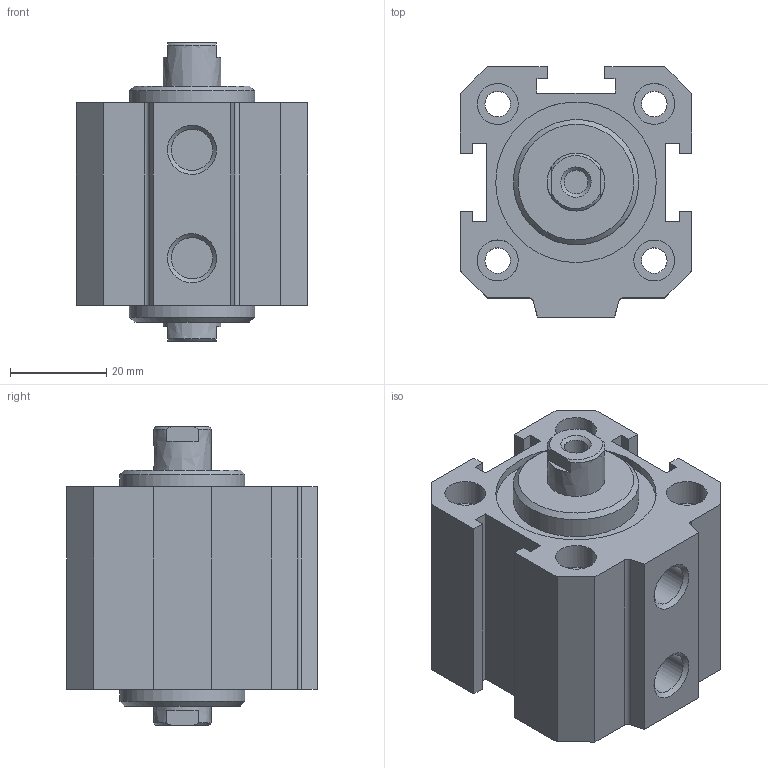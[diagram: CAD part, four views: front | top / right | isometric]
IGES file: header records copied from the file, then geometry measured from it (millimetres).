
Global section: file name: 1514_32_0005; native system: Autodesk Inventor 2014; preprocessor: unknown; author: A. Manieri; date: 20160824.113510; units: millimetre
Bounding box: 48 x 52 x 62 mm (x, y, z)
Volume: 80869.9 mm3; surface area: 28335.4 mm2
Topology: 2 solids, 2 shells, 106 faces, 276 edges, 194 vertices
Faces by surface type: bspline 106
